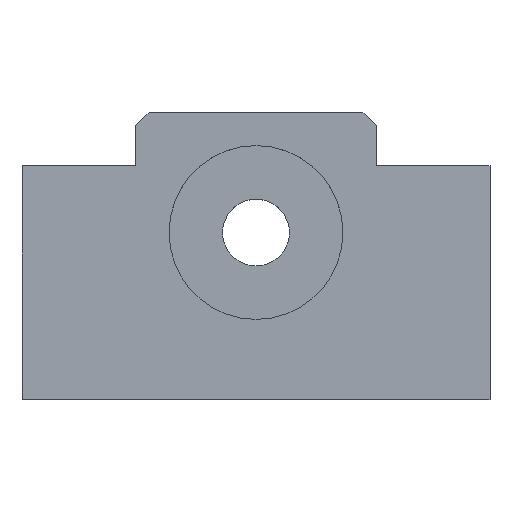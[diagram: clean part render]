
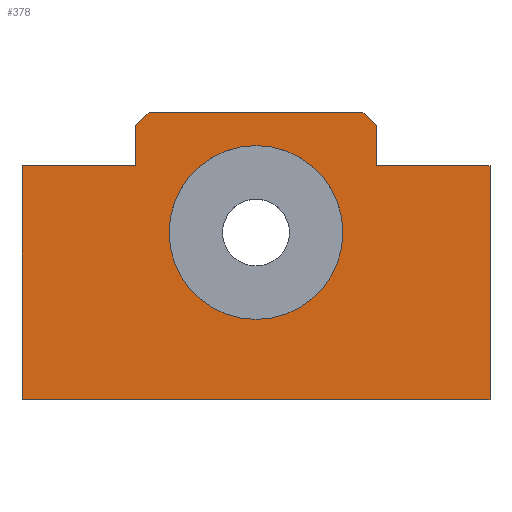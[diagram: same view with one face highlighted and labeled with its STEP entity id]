
A CAD part, top view. The second image highlights one B-rep face of the part: STEP entity #378.
In plain terms, the highlighted planar face has unit normal (0, 0, 1).
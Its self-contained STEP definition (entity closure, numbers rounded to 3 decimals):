
#42=FACE_BOUND($,#113,.T.);
#48=CIRCLE($,#396,13.);
#73=FACE_OUTER_BOUND($,#112,.T.);
#112=EDGE_LOOP($,(#329,#330,#331,#332,#333,#334,#335,#336,#337,#338));
#113=EDGE_LOOP($,(#339));
#114=LINE($,#529,#144);
#120=LINE($,#540,#150);
#129=LINE($,#562,#159);
#132=LINE($,#567,#162);
#135=LINE($,#610,#165);
#137=LINE($,#613,#167);
#138=LINE($,#615,#168);
#139=LINE($,#618,#169);
#141=LINE($,#622,#171);
#143=LINE($,#625,#173);
#144=VECTOR($,#423,2.828);
#150=VECTOR($,#431,6.);
#159=VECTOR($,#446,2.828);
#162=VECTOR($,#451,6.);
#165=VECTOR($,#504,35.);
#167=VECTOR($,#508,17.);
#168=VECTOR($,#511,32.);
#169=VECTOR($,#514,17.);
#171=VECTOR($,#518,35.);
#173=VECTOR($,#522,70.);
#174=VERTEX_POINT($,#527);
#175=VERTEX_POINT($,#528);
#179=VERTEX_POINT($,#538);
#188=VERTEX_POINT($,#560);
#189=VERTEX_POINT($,#561);
#190=VERTEX_POINT($,#566);
#195=VERTEX_POINT($,#581);
#204=VERTEX_POINT($,#607);
#205=VERTEX_POINT($,#609);
#206=VERTEX_POINT($,#617);
#207=VERTEX_POINT($,#621);
#208=EDGE_CURVE($,#174,#175,#114,.T.);
#214=EDGE_CURVE($,#174,#179,#120,.T.);
#224=EDGE_CURVE($,#188,#189,#129,.T.);
#227=EDGE_CURVE($,#190,#189,#132,.T.);
#233=EDGE_CURVE($,#195,#195,#48,.T.);
#243=EDGE_CURVE($,#205,#204,#135,.T.);
#245=EDGE_CURVE($,#179,#205,#137,.T.);
#246=EDGE_CURVE($,#188,#175,#138,.T.);
#247=EDGE_CURVE($,#206,#190,#139,.T.);
#249=EDGE_CURVE($,#207,#206,#141,.T.);
#251=EDGE_CURVE($,#204,#207,#143,.T.);
#329=ORIENTED_EDGE($,*,*,#208,.F.);
#330=ORIENTED_EDGE($,*,*,#214,.T.);
#331=ORIENTED_EDGE($,*,*,#245,.T.);
#332=ORIENTED_EDGE($,*,*,#243,.T.);
#333=ORIENTED_EDGE($,*,*,#251,.T.);
#334=ORIENTED_EDGE($,*,*,#249,.T.);
#335=ORIENTED_EDGE($,*,*,#247,.T.);
#336=ORIENTED_EDGE($,*,*,#227,.T.);
#337=ORIENTED_EDGE($,*,*,#224,.F.);
#338=ORIENTED_EDGE($,*,*,#246,.T.);
#339=ORIENTED_EDGE($,*,*,#233,.T.);
#355=PLANE($,#418);
#378=ADVANCED_FACE($,(#73,#42),#355,.T.);
#396=AXIS2_PLACEMENT_3D($,#582,#469,#470);
#418=AXIS2_PLACEMENT_3D($,#626,#523,#524);
#423=DIRECTION($,(0.707,0.707,0.));
#431=DIRECTION($,(0.,-1.,0.));
#446=DIRECTION($,(0.707,-0.707,0.));
#451=DIRECTION($,(0.,1.,0.));
#469=DIRECTION('center_axis',(0.,0.,-1.));
#470=DIRECTION('ref_axis',(-1.,0.,0.));
#504=DIRECTION($,(0.,-1.,0.));
#508=DIRECTION($,(-1.,0.,0.));
#511=DIRECTION($,(-1.,0.,0.));
#514=DIRECTION($,(-1.,0.,0.));
#518=DIRECTION($,(0.,1.,0.));
#522=DIRECTION($,(1.,0.,0.));
#523=DIRECTION('center_axis',(0.,0.,1.));
#524=DIRECTION('ref_axis',(1.,0.,0.));
#527=CARTESIAN_POINT('',(17.,41.,20.));
#528=CARTESIAN_POINT('',(19.,43.,20.));
#529=CARTESIAN_POINT($,(16.824,40.824,20.));
#538=CARTESIAN_POINT('',(17.,35.,20.));
#540=CARTESIAN_POINT($,(17.,43.,20.));
#560=CARTESIAN_POINT('',(51.,43.,20.));
#561=CARTESIAN_POINT('',(53.,41.,20.));
#562=CARTESIAN_POINT($,(53.176,40.824,20.));
#566=CARTESIAN_POINT('',(53.,35.,20.));
#567=CARTESIAN_POINT($,(53.,35.,20.));
#581=CARTESIAN_POINT('',(48.,25.,20.));
#582=CARTESIAN_POINT('Origin',(35.,25.,20.));
#607=CARTESIAN_POINT('',(0.,0.,20.));
#609=CARTESIAN_POINT('',(0.,35.,20.));
#610=CARTESIAN_POINT($,(0.,35.,20.));
#613=CARTESIAN_POINT($,(17.,35.,20.));
#615=CARTESIAN_POINT($,(53.,43.,20.));
#617=CARTESIAN_POINT('',(70.,35.,20.));
#618=CARTESIAN_POINT($,(70.,35.,20.));
#621=CARTESIAN_POINT('',(70.,0.,20.));
#622=CARTESIAN_POINT($,(70.,0.,20.));
#625=CARTESIAN_POINT($,(0.,0.,20.));
#626=CARTESIAN_POINT('Origin',(35.,20.296,20.));
